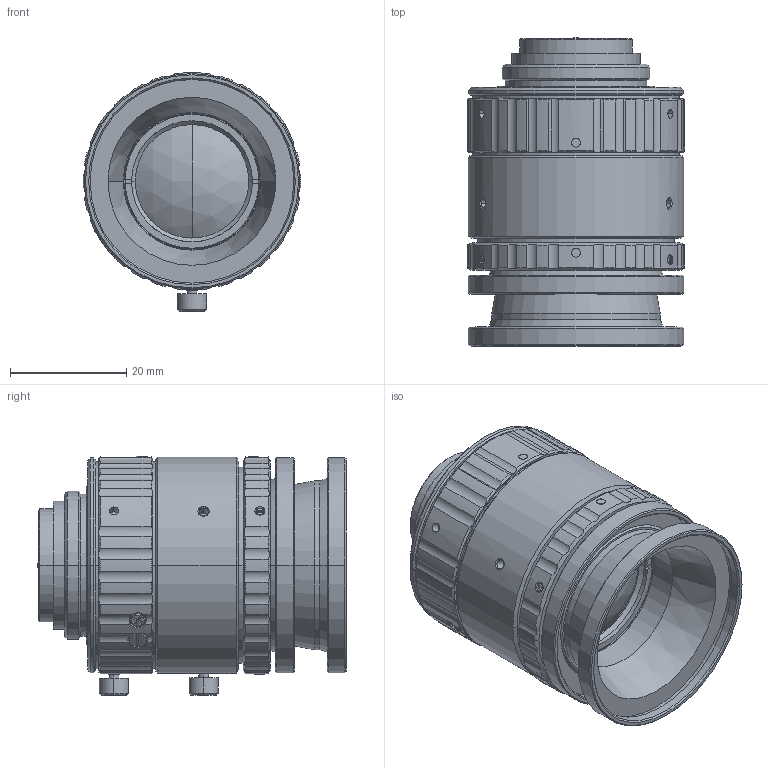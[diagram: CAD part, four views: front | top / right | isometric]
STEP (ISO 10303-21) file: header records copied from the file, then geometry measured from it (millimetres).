
FILE_DESCRIPTION (( 'STEP AP214' ), '1' );
FILE_NAME ('3D-drawing of V2520-MPZ_20190820.STEP', '2019-08-20T09:09:21', ( '' ), ( '' ), 'SwSTEP 2.0', 'SolidWorks 2013', '' );
FILE_SCHEMA (( 'AUTOMOTIVE_DESIGN' ));
Length unit declared in the file: millimetre
Products named in the file (3): V2520-MPZ_Mechnical limit_20190820; V2520-MPZ_Infinity_20190820; 3D-drawing of V2520-MPZ_20190820
Assembly tree (2 placements, depth 2):
  3D-drawing of V2520-MPZ_20190820
    V2520-MPZ_Infinity_20190820
    V2520-MPZ_Mechnical limit_20190820
Bounding box: 37.4 x 52.95 x 41.08 mm (x, y, z)
Volume: 70462.8 mm3; surface area: 20754.7 mm2
Topology: 2 solids, 12 shells, 1019 faces, 2584 edges, 1670 vertices
Faces by surface type: cylinder 488, plane 339, cone 172, torus 12, sphere 8
Entity records: 37644 total; most frequent: CARTESIAN_POINT 9226, ORIENTED_EDGE 5168, DIRECTION 5048, EDGE_CURVE 2584, AXIS2_PLACEMENT_3D 1872, VERTEX_POINT 1670, LINE 1304, VECTOR 1304
